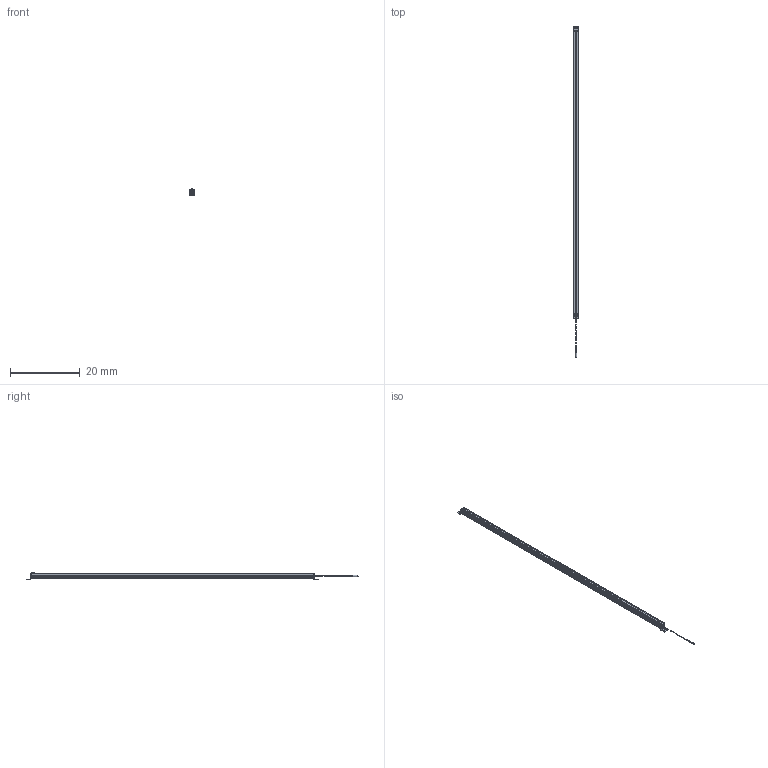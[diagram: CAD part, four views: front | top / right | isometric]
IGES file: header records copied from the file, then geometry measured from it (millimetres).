
Start section:  Autodesk DirectConnect version 7.0.27.0 ---- IGES version 5.3
Global section: file name: C:\ACADFILES\SS_PYLONS\CUSTOMER_FILES\SS-80-PYLON_3D_L.iges; native system: Autodesk DirectConnect 7.0.27.0; preprocessor: 7.0.27.0; author: ENGINEERMAIN; organization: Unknown; date: 20150810.130259; units: millimetre
Bounding box: 1.46 x 95.52 x 2.11 mm (x, y, z)
Surface area: 1195.7 mm2 (no closed solid volume)
Topology: 0 solids, 0 shells, 475 faces, 2604 edges, 2623 vertices
Faces by surface type: bspline 475
